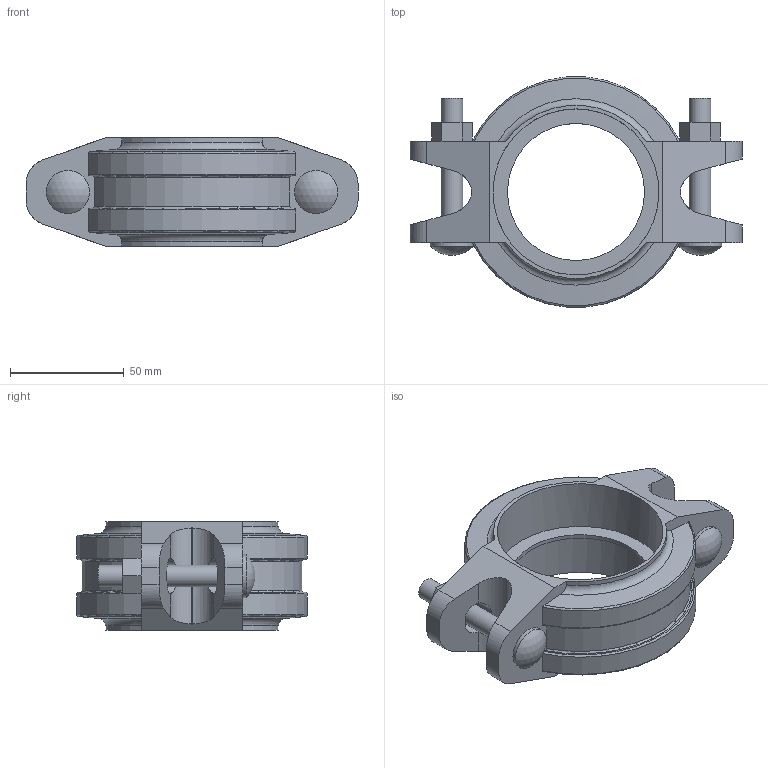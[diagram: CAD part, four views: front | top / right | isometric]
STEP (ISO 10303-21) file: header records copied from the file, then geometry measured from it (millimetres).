
FILE_DESCRIPTION(/* description */ ('VIC STYLE 005H FIRELOCK RIGID COUPLING','CAx-IF Rec.Pracs.---Representation and Presentation of Product Manufacturing Information (PMI)---4.0---2014-10-13'),/* implementation_level */ '2;1');
FILE_NAME(/* name */ 'C:\Users\Vjadhav\Desktop\CAD for Inventor\1\Coupling bolt thickness\005H\STEP\Victaulic_FP-FireLock_Coupling Rigid_Style 005H (OGS)\Victaulic_FP-FireLock_Coupling Rigid_Style 005H (OGS)_2.5 (65).stp',/* time_stamp */ '2022-03-28T11:24:40+06:00',/* author */ ('jheald'),/* organization */ ('Victaulic'),/* preprocessor_version */ 'ST-DEVELOPER v17.2',/* originating_system */ 'Autodesk Inventor 2019',/* authorisation */ '');
FILE_SCHEMA (('AP242_MANAGED_MODEL_BASED_3D_ENGINEERING_MIM_LF { 1 0 10303 442 1 1 4 }'));
Length unit declared in the file: inch
Products named in the file (1): 005H-02.5
Bounding box: 146.05 x 101.23 x 47.75 mm (x, y, z)
Volume: 189761.8 mm3; surface area: 48877.7 mm2
Topology: 1 solids, 1 shells, 117 faces, 345 edges, 234 vertices
Faces by surface type: plane 56, cylinder 39, torus 16, cone 4, sphere 2
Full cylindrical faces by diameter (mm): 9.525 x4, 19.05 x2, 60.325 x1, 73.025 x2
Entity records: 4508 total; most frequent: CARTESIAN_POINT 1090, ORIENTED_EDGE 690, DIRECTION 673, EDGE_CURVE 345, AXIS2_PLACEMENT_3D 245, VERTEX_POINT 234, LINE 183, VECTOR 183
